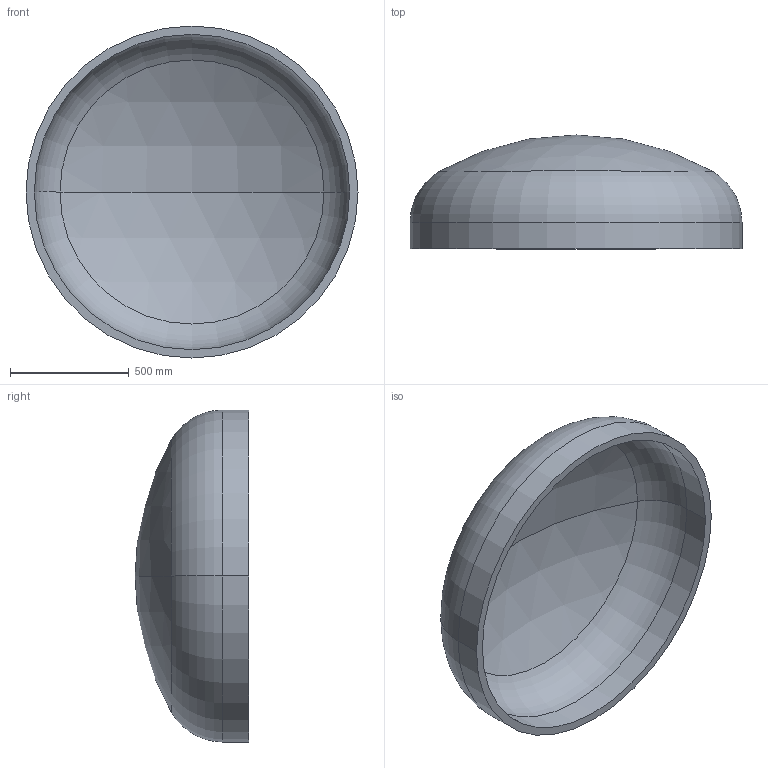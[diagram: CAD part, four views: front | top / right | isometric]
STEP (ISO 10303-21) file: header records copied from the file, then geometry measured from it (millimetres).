
FILE_DESCRIPTION (( 'STEP AP203' ), '1' );
FILE_NAME ('DIN 28013 Korbbogenform_-_Boden DIN 28013 - 1400 x 110 - I - s=35.step', '2016-07-01T10:15:51', ( '' ), ( '' ), 'SwSTEP 2.0', 'SolidWorks 2013', '' );
FILE_SCHEMA (( 'CONFIG_CONTROL_DESIGN' ));
Length unit declared in the file: millimetre
Products named in the file (1): DIN 28013 Korbbogenform_-_Boden DIN 28013 - 1400 x 110 - I - s=35
Bounding box: 1400 x 479.81 x 1400 mm (x, y, z)
Volume: 88683242.2 mm3; surface area: 5220267.6 mm2
Topology: 1 solids, 1 shells, 13 faces, 24 edges, 14 vertices
Faces by surface type: torus 4, cylinder 4, sphere 4, plane 1
Entity records: 407 total; most frequent: DIRECTION 72, CARTESIAN_POINT 52, ORIENTED_EDGE 48, AXIS2_PLACEMENT_3D 34, EDGE_CURVE 24, CIRCLE 20, EDGE_LOOP 14, VERTEX_POINT 14
